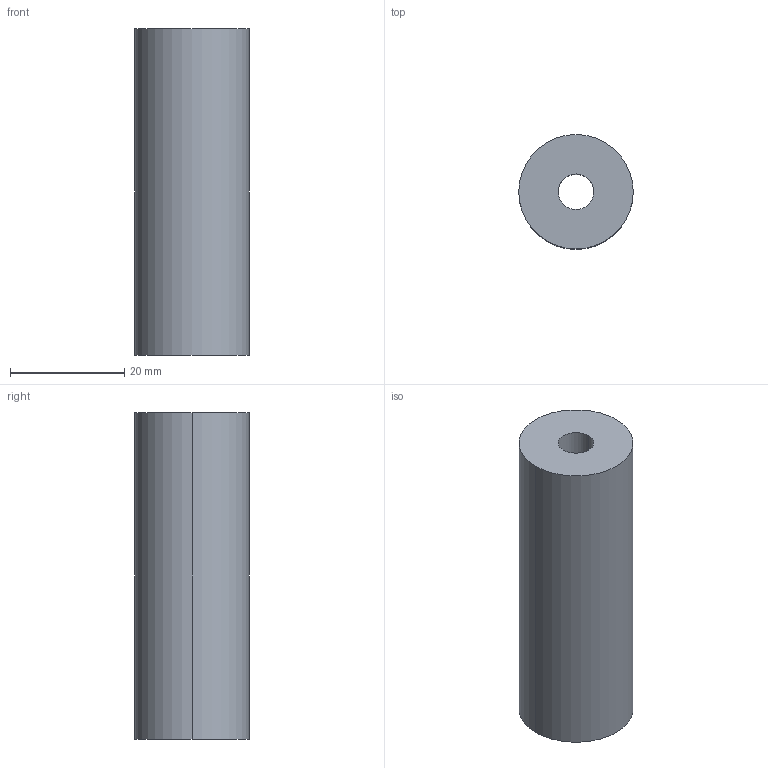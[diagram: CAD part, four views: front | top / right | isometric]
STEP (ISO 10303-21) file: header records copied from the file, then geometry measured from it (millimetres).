
FILE_DESCRIPTION((''),'2;1');
FILE_NAME('0000205726','2024-02-27T13:37:45',('Wyndorps'),(''),'CREO PARAMETRIC BY PTC INC, 2022484','CREO PARAMETRIC BY PTC INC, 2022484','');
FILE_SCHEMA(('CONFIG_CONTROL_DESIGN'));
Length unit declared in the file: millimetre
Products named in the file (1): 0000205726
Bounding box: 20 x 20 x 57 mm (x, y, z)
Volume: 16186.2 mm3; surface area: 5259.6 mm2
Topology: 1 solids, 1 shells, 6 faces, 12 edges, 8 vertices
Faces by surface type: cylinder 4, plane 2
Entity records: 206 total; most frequent: DIRECTION 32, CARTESIAN_POINT 26, ORIENTED_EDGE 24, AXIS2_PLACEMENT_3D 14, EDGE_CURVE 12, VERTEX_POINT 8, EDGE_LOOP 8, CIRCLE 8
